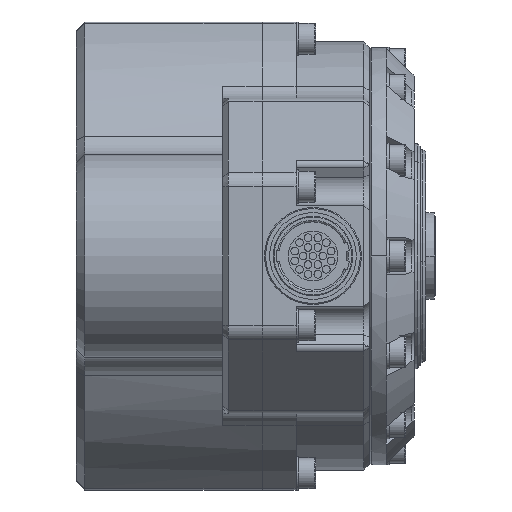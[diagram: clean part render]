
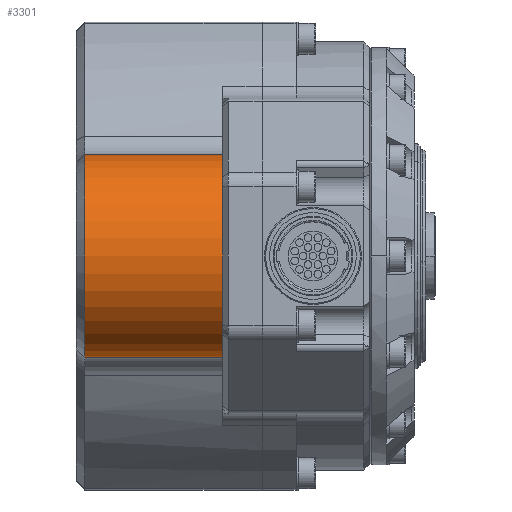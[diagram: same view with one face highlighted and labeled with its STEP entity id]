
A CAD part, left-side view. The second image highlights one B-rep face of the part: STEP entity #3301.
In plain terms, the highlighted cylindrical face has radius 18 mm (diameter 36 mm), a partial arc.
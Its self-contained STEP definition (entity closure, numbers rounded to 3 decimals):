
#169 = VECTOR ( 'NONE', #35331, 1000. ) ;
#2258 = VERTEX_POINT ( 'NONE', #5747 ) ;
#2707 = EDGE_CURVE ( 'NONE', #44995, #56031, #57174, .T. ) ;
#3012 = CYLINDRICAL_SURFACE ( 'NONE', #58883, 18. ) ;
#3301 = ADVANCED_FACE ( 'NONE', ( #20582 ), #3012, .T. ) ;
#3899 = LINE ( 'NONE', #42961, #38991 ) ;
#5182 = CARTESIAN_POINT ( 'NONE',  ( -82., 26., 18. ) ) ;
#5747 = CARTESIAN_POINT ( 'NONE',  ( -82., 50.5, -18. ) ) ;
#6223 = EDGE_CURVE ( 'NONE', #56031, #2258, #21588, .T. ) ;
#6595 = ORIENTED_EDGE ( 'NONE', *, *, #52704, .F. ) ;
#8569 = AXIS2_PLACEMENT_3D ( 'NONE', #30413, #11614, #16514 ) ;
#11614 = DIRECTION ( 'NONE',  ( 0., -1., 0. ) ) ;
#16514 = DIRECTION ( 'NONE',  ( 0., 0., 1. ) ) ;
#19355 = CARTESIAN_POINT ( 'NONE',  ( -82., 26., -18. ) ) ;
#19668 = DIRECTION ( 'NONE',  ( 0., 0., 1. ) ) ;
#20582 = FACE_OUTER_BOUND ( 'NONE', #55275, .T. ) ;
#20879 = DIRECTION ( 'NONE',  ( 0., 1., 0. ) ) ;
#21519 = CIRCLE ( 'NONE', #23499, 18. ) ;
#21588 = CIRCLE ( 'NONE', #8569, 18. ) ;
#22535 = ORIENTED_EDGE ( 'NONE', *, *, #51108, .F. ) ;
#23499 = AXIS2_PLACEMENT_3D ( 'NONE', #38699, #43962, #19668 ) ;
#24861 = VERTEX_POINT ( 'NONE', #19355 ) ;
#30413 = CARTESIAN_POINT ( 'NONE',  ( -82., 50.5, 0. ) ) ;
#35331 = DIRECTION ( 'NONE',  ( 0., 1., 0. ) ) ;
#38311 = DIRECTION ( 'NONE',  ( 0., 1., 0. ) ) ;
#38699 = CARTESIAN_POINT ( 'NONE',  ( -82., 26., 0. ) ) ;
#38991 = VECTOR ( 'NONE', #38311, 1000. ) ;
#39383 = ORIENTED_EDGE ( 'NONE', *, *, #6223, .T. ) ;
#42961 = CARTESIAN_POINT ( 'NONE',  ( -82., -159.064, -18. ) ) ;
#43962 = DIRECTION ( 'NONE',  ( 0., -1., 0. ) ) ;
#44995 = VERTEX_POINT ( 'NONE', #5182 ) ;
#49671 = DIRECTION ( 'NONE',  ( 0., 0., 1. ) ) ;
#49821 = CARTESIAN_POINT ( 'NONE',  ( -82., -159.064, 18. ) ) ;
#51108 = EDGE_CURVE ( 'NONE', #44995, #24861, #21519, .T. ) ;
#52704 = EDGE_CURVE ( 'NONE', #24861, #2258, #3899, .T. ) ;
#52928 = ORIENTED_EDGE ( 'NONE', *, *, #2707, .T. ) ;
#55126 = CARTESIAN_POINT ( 'NONE',  ( -82., 50.5, 18. ) ) ;
#55275 = EDGE_LOOP ( 'NONE', ( #52928, #39383, #6595, #22535 ) ) ;
#56031 = VERTEX_POINT ( 'NONE', #55126 ) ;
#57174 = LINE ( 'NONE', #49821, #169 ) ;
#58274 = CARTESIAN_POINT ( 'NONE',  ( -82., -159.064, 0. ) ) ;
#58883 = AXIS2_PLACEMENT_3D ( 'NONE', #58274, #20879, #49671 ) ;
